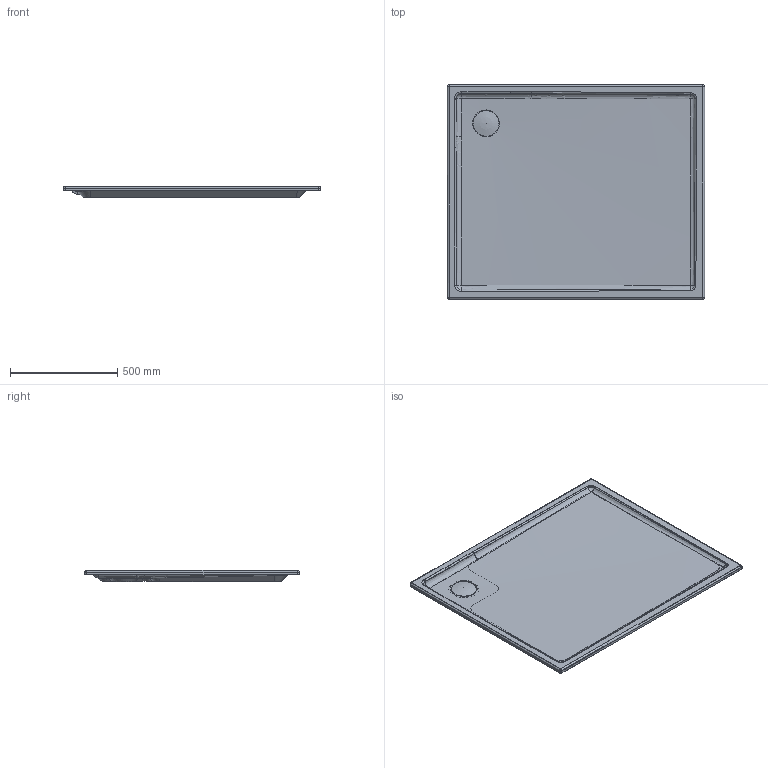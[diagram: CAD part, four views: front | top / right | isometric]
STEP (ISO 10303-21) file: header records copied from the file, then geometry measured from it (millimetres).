
FILE_DESCRIPTION((''),'2;1');
FILE_NAME('C:\Users\Administrator\Desktop\NEWS 2013\STARCK New DU Slimline\3d\stp\720123.stp','2013-06-27T20:24:47',('Administrator'),(''),'Autodesk Inventor 2011','Autodesk Inventor 2011','');
FILE_SCHEMA(('CONFIG_CONTROL_DESIGN'));
Length unit declared in the file: millimetre
Products named in the file (3): 720123; Stopfen_120
Assembly tree (2 placements, depth 2):
  720123
    720123
    Stopfen_120
Bounding box: 1200.36 x 1000.44 x 53 mm (x, y, z)
Volume: 18941087.8 mm3; surface area: 2680855.1 mm2
Topology: 2 solids, 2 shells, 119 faces, 285 edges, 171 vertices
Faces by surface type: bspline 34, plane 30, cylinder 24, sphere 16, torus 9, cone 6
Full cylindrical faces by diameter (mm): 46.019 x1, 59.187 x1, 72.614 x1, 90 x1
Entity records: 8670 total; most frequent: CARTESIAN_POINT 6040, ORIENTED_EDGE 526, DIRECTION 458, EDGE_CURVE 263, AXIS2_PLACEMENT_3D 190, VERTEX_POINT 161, EDGE_LOOP 134, FACE_OUTER_BOUND 119
